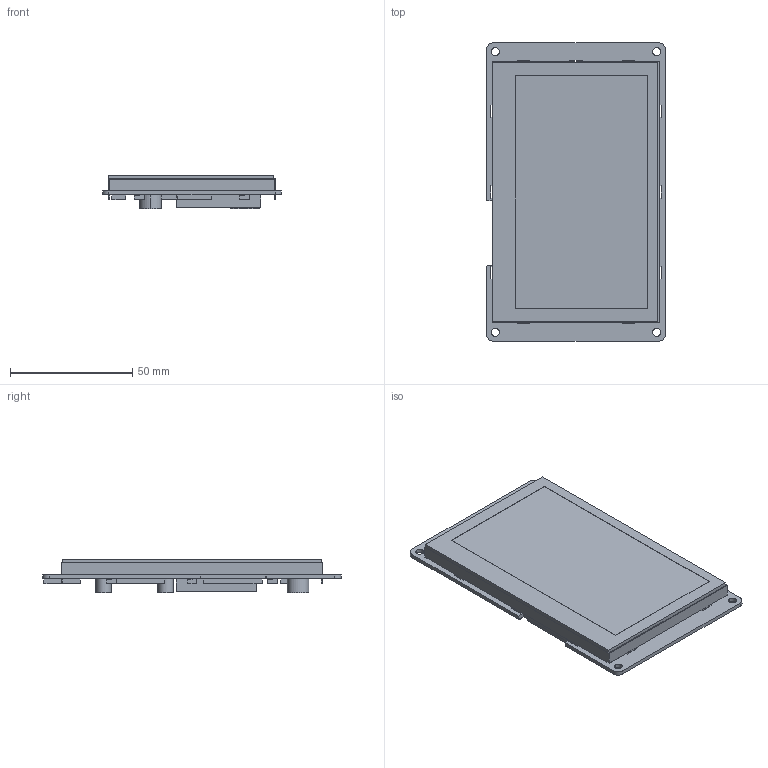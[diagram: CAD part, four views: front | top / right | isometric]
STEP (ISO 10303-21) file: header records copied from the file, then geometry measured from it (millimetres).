
FILE_DESCRIPTION((''),'2;1');
FILE_NAME('3D-DMG48270C043-05WTR-241219','2024-12-19T',('Administrator'),(''),'PRO/ENGINEER BY PARAMETRIC TECHNOLOGY CORPORATION, 2011310','PRO/ENGINEER BY PARAMETRIC TECHNOLOGY CORPORATION, 2011310','');
FILE_SCHEMA(('CONFIG_CONTROL_DESIGN','SHAPE_APPEARANCE_LAYERS_GROUPS'));
Length unit declared in the file: millimetre
Products named in the file (1): 3D-DMG48270C043-05WTR-241219
Bounding box: 73.15 x 121.92 x 13.9 mm (x, y, z)
Volume: 54125.4 mm3; surface area: 51100.7 mm2
Topology: 1 solids, 2 shells, 276 faces, 786 edges, 516 vertices
Faces by surface type: plane 223, cylinder 53
Entity records: 10771 total; most frequent: CARTESIAN_POINT 1578, ORIENTED_EDGE 1572, DIRECTION 1446, EDGE_CURVE 786, VECTOR 678, LINE 678, VERTEX_POINT 516, AXIS2_PLACEMENT_3D 384
